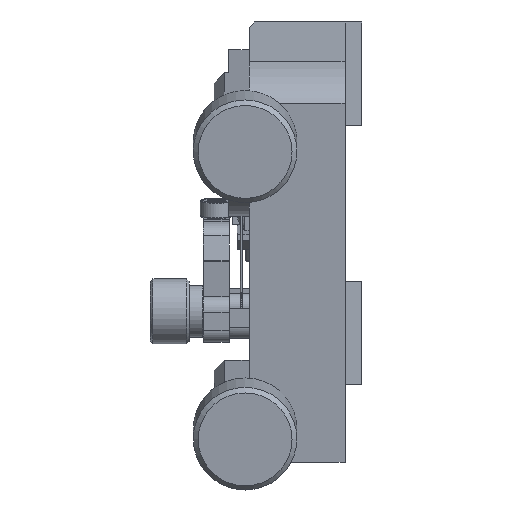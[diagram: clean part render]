
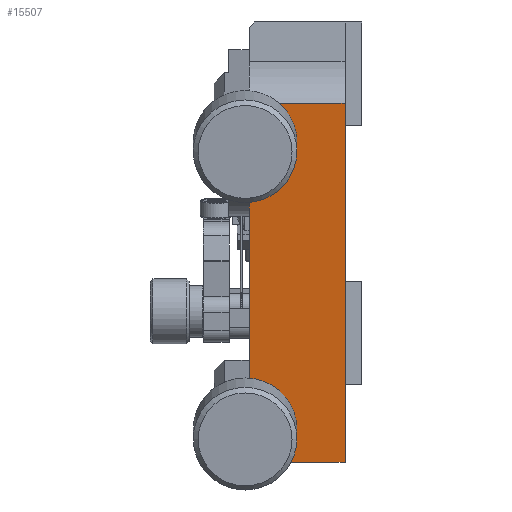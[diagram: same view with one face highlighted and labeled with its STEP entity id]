
A CAD part, left-side view. The second image highlights one B-rep face of the part: STEP entity #15507.
In plain terms, the highlighted planar face has unit normal (-0.99, 0, -0.139).
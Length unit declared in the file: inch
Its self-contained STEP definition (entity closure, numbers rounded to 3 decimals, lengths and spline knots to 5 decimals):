
#13551=CARTESIAN_POINT('',(-2.84501,-0.038,0.48376));
#13552=VERTEX_POINT('',#13551);
#13560=CARTESIAN_POINT('',(-2.84501,-0.5,0.48376));
#13561=VERTEX_POINT('',#13560);
#13562=CARTESIAN_POINT('',(-2.84501,-0.184,0.48376));
#13563=DIRECTION('',(0.0,1.0,0.0));
#13564=VECTOR('',#13563,39.37008);
#13565=LINE('',#13562,#13564);
#13566=EDGE_CURVE('',#13561,#13552,#13565,.T.);
#13611=CARTESIAN_POINT('',(-2.60146,-0.5,-1.24921));
#13612=VERTEX_POINT('',#13611);
#13613=CARTESIAN_POINT('',(-2.72324,-0.5,-0.38273));
#13614=DIRECTION('',(0.139,0.0,-0.99));
#13615=VECTOR('',#13614,39.37008);
#13616=LINE('',#13613,#13615);
#13617=EDGE_CURVE('',#13561,#13612,#13616,.T.);
#13691=CARTESIAN_POINT('',(-2.60842,0.132,-1.1997));
#13692=VERTEX_POINT('',#13691);
#13693=CARTESIAN_POINT('',(-2.60146,0.082,-1.24921));
#13694=VERTEX_POINT('',#13693);
#13695=CARTESIAN_POINT('',(-2.61339,0.16775,-1.1643));
#13696=DIRECTION('',(0.098,-0.707,-0.7));
#13697=VECTOR('',#13696,39.37008);
#13698=LINE('',#13695,#13697);
#13699=EDGE_CURVE('',#13692,#13694,#13698,.T.);
#13741=CARTESIAN_POINT('',(-2.64319,0.132,-0.95227));
#13742=VERTEX_POINT('',#13741);
#13743=CARTESIAN_POINT('',(-2.72324,0.132,-0.38273));
#13744=DIRECTION('',(-0.139,0.0,0.99));
#13745=VECTOR('',#13744,39.37008);
#13746=LINE('',#13743,#13745);
#13747=EDGE_CURVE('',#13692,#13742,#13746,.T.);
#13765=CARTESIAN_POINT('',(-2.65015,0.082,-0.90275));
#13766=VERTEX_POINT('',#13765);
#13767=CARTESIAN_POINT('',(-2.68693,-0.18228,-0.64104));
#13768=DIRECTION('',(0.098,0.707,-0.7));
#13769=VECTOR('',#13768,39.37008);
#13770=LINE('',#13767,#13769);
#13771=EDGE_CURVE('',#13766,#13742,#13770,.T.);
#13798=CARTESIAN_POINT('',(-2.83807,-0.018,0.43438));
#13799=VERTEX_POINT('',#13798);
#13806=CARTESIAN_POINT('',(-2.80328,-0.018,0.18681));
#13807=VERTEX_POINT('',#13806);
#13808=CARTESIAN_POINT('',(-2.82068,-0.018,0.3106));
#13809=DIRECTION('',(0.99,0.0,0.139));
#13810=DIRECTION('',(-0.139,0.0,0.99));
#13811=AXIS2_PLACEMENT_3D('',#13808,#13809,#13810);
#13812=CIRCLE('',#13811,0.125);
#13813=EDGE_CURVE('',#13807,#13799,#13812,.T.);
#13815=EDGE_CURVE('',#13799,#13807,#13812,.T.);
#13829=CARTESIAN_POINT('',(-2.64321,-0.018,-0.95213));
#13830=VERTEX_POINT('',#13829);
#13837=CARTESIAN_POINT('',(-2.60842,-0.018,-1.1997));
#13838=VERTEX_POINT('',#13837);
#13839=CARTESIAN_POINT('',(-2.62582,-0.018,-1.07591));
#13840=DIRECTION('',(0.99,0.0,0.139));
#13841=DIRECTION('',(-0.139,0.0,0.99));
#13842=AXIS2_PLACEMENT_3D('',#13839,#13840,#13841);
#13843=CIRCLE('',#13842,0.125);
#13844=EDGE_CURVE('',#13838,#13830,#13843,.T.);
#13846=EDGE_CURVE('',#13830,#13838,#13843,.T.);
#13958=CARTESIAN_POINT('',(-2.79632,0.082,0.1373));
#13959=VERTEX_POINT('',#13958);
#13960=CARTESIAN_POINT('',(-2.80328,0.132,0.18681));
#13961=VERTEX_POINT('',#13960);
#13962=CARTESIAN_POINT('',(-2.75954,-0.18228,-0.12441));
#13963=DIRECTION('',(-0.098,0.707,0.7));
#13964=VECTOR('',#13963,39.37008);
#13965=LINE('',#13962,#13964);
#13966=EDGE_CURVE('',#13959,#13961,#13965,.T.);
#14004=CARTESIAN_POINT('',(-2.60146,-0.3845,-1.24921));
#14005=DIRECTION('',(0.0,1.0,-0.0));
#14006=VECTOR('',#14005,39.37008);
#14007=LINE('',#14004,#14006);
#14008=EDGE_CURVE('',#13612,#13694,#14007,.T.);
#14342=CARTESIAN_POINT('',(-2.79632,-0.038,0.1373));
#14343=VERTEX_POINT('',#14342);
#14350=CARTESIAN_POINT('',(-2.79632,-0.038,0.1373));
#14351=DIRECTION('',(0.0,-1.0,0.0));
#14352=VECTOR('',#14351,39.37008);
#14353=LINE('',#14350,#14352);
#14354=EDGE_CURVE('',#13959,#14343,#14353,.T.);
#14374=CARTESIAN_POINT('',(-2.65015,-0.038,-0.90275));
#14375=VERTEX_POINT('',#14374);
#14389=CARTESIAN_POINT('',(-2.65015,-0.038,-0.90275));
#14390=DIRECTION('',(0.0,-1.0,0.0));
#14391=VECTOR('',#14390,39.37008);
#14392=LINE('',#14389,#14391);
#14393=EDGE_CURVE('',#13766,#14375,#14392,.T.);
#15455=CARTESIAN_POINT('',(-2.83805,0.132,0.43425));
#15456=VERTEX_POINT('',#15455);
#15457=CARTESIAN_POINT('',(-2.84501,0.082,0.48376));
#15458=VERTEX_POINT('',#15457);
#15459=CARTESIAN_POINT('',(-2.83308,0.16775,0.39884));
#15460=DIRECTION('',(-0.098,-0.707,0.7));
#15461=VECTOR('',#15460,39.37008);
#15462=LINE('',#15459,#15461);
#15463=EDGE_CURVE('',#15456,#15458,#15462,.T.);
#15464=ORIENTED_EDGE('',*,*,#15463,.F.);
#15465=CARTESIAN_POINT('',(-2.72324,0.132,-0.38273));
#15466=DIRECTION('',(0.139,0.0,-0.99));
#15467=VECTOR('',#15466,39.37008);
#15468=LINE('',#15465,#15467);
#15469=EDGE_CURVE('',#15456,#13961,#15468,.T.);
#15470=ORIENTED_EDGE('',*,*,#15469,.T.);
#15471=ORIENTED_EDGE('',*,*,#13966,.F.);
#15472=ORIENTED_EDGE('',*,*,#14354,.T.);
#15473=CARTESIAN_POINT('',(-2.72324,-0.038,-0.38273));
#15474=DIRECTION('',(0.139,0.0,-0.99));
#15475=VECTOR('',#15474,39.37008);
#15476=LINE('',#15473,#15475);
#15477=EDGE_CURVE('',#14343,#14375,#15476,.T.);
#15478=ORIENTED_EDGE('',*,*,#15477,.T.);
#15479=ORIENTED_EDGE('',*,*,#14393,.F.);
#15480=ORIENTED_EDGE('',*,*,#13771,.T.);
#15481=ORIENTED_EDGE('',*,*,#13747,.F.);
#15482=ORIENTED_EDGE('',*,*,#13699,.T.);
#15483=ORIENTED_EDGE('',*,*,#14008,.F.);
#15484=ORIENTED_EDGE('',*,*,#13617,.F.);
#15485=ORIENTED_EDGE('',*,*,#13566,.T.);
#15486=CARTESIAN_POINT('',(-2.84501,-0.184,0.48376));
#15487=DIRECTION('',(0.0,1.0,0.0));
#15488=VECTOR('',#15487,39.37008);
#15489=LINE('',#15486,#15488);
#15490=EDGE_CURVE('',#13552,#15458,#15489,.T.);
#15491=ORIENTED_EDGE('',*,*,#15490,.T.);
#15492=EDGE_LOOP('',(#15464,#15470,#15471,#15472,#15478,#15479,#15480,#15481,#15482,#15483,#15484,#15485,#15491));
#15493=FACE_OUTER_BOUND('',#15492,.T.);
#15494=ORIENTED_EDGE('',*,*,#13844,.T.);
#15495=ORIENTED_EDGE('',*,*,#13846,.T.);
#15496=EDGE_LOOP('',(#15494,#15495));
#15497=FACE_BOUND('',#15496,.T.);
#15498=ORIENTED_EDGE('',*,*,#13813,.T.);
#15499=ORIENTED_EDGE('',*,*,#13815,.T.);
#15500=EDGE_LOOP('',(#15498,#15499));
#15501=FACE_BOUND('',#15500,.T.);
#15502=CARTESIAN_POINT('',(-2.72324,-0.5,-0.38273));
#15503=DIRECTION('',(-0.99,0.0,-0.139));
#15504=DIRECTION('',(-0.0,1.0,0.0));
#15505=AXIS2_PLACEMENT_3D('',#15502,#15503,#15504);
#15506=PLANE('',#15505);
#15507=ADVANCED_FACE('',(#15493,#15497,#15501),#15506,.T.);
